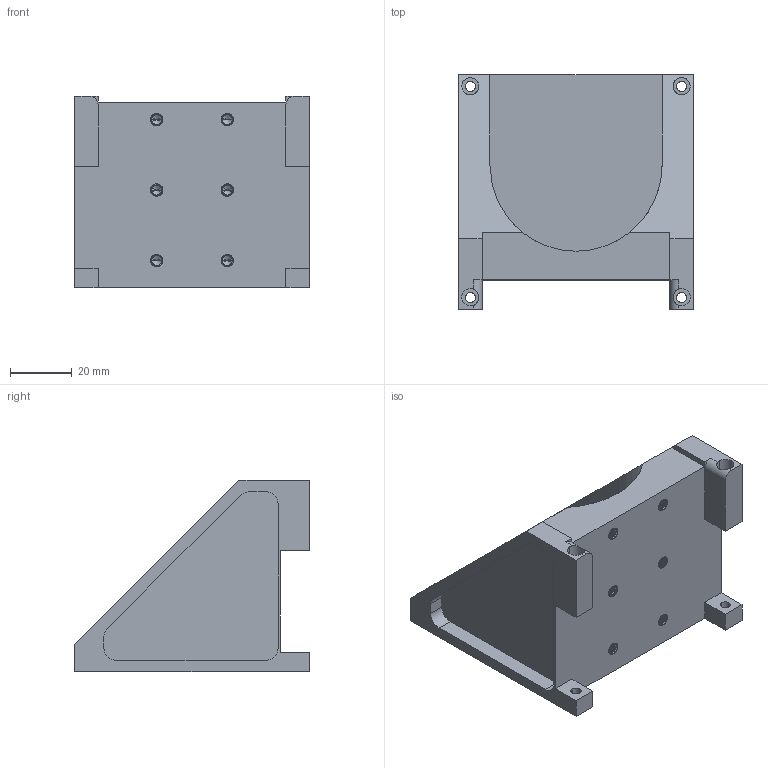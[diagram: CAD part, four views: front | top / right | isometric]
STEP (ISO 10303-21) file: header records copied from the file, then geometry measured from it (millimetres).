
FILE_DESCRIPTION((''),'2;1');
FILE_NAME('LM95-A1','2024-03-05T17:47:30',('R&D'),(''),'CREO PARAMETRIC BY PTC INC, 2021063','CREO PARAMETRIC BY PTC INC, 2021063','');
FILE_SCHEMA(('CONFIG_CONTROL_DESIGN'));
Length unit declared in the file: millimetre
Products named in the file (1): LM95-A1
Bounding box: 76.2 x 76.2 x 62.23 mm (x, y, z)
Volume: 105222.3 mm3; surface area: 33105.9 mm2
Topology: 1 solids, 7 shells, 352 faces, 968 edges, 624 vertices
Faces by surface type: cylinder 199, bspline 90, plane 51, cone 12
Entity records: 27112 total; most frequent: CARTESIAN_POINT 19202, ORIENTED_EDGE 1888, DIRECTION 1176, EDGE_CURVE 956, VERTEX_POINT 624, B_SPLINE_CURVE_WITH_KNOTS 434, VECTOR 394, LINE 394
